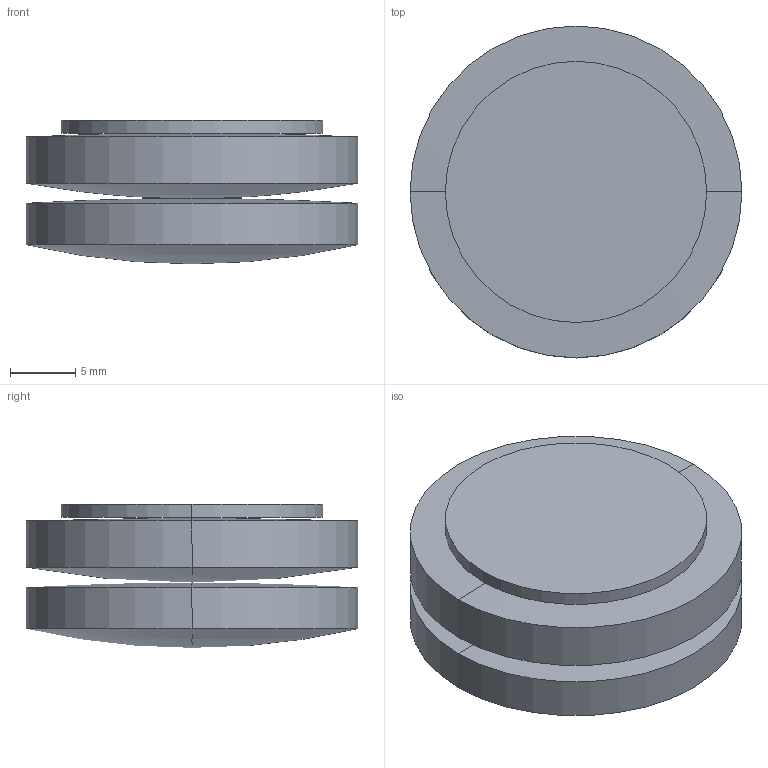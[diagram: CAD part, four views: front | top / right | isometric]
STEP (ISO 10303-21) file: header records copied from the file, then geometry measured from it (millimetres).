
FILE_DESCRIPTION(('STEP AP214'),'1');
FILE_NAME('LLQ-25100.STEP','2020-03-09T17:41:46',(' '),(' '),'Spatial InterOp 3D',' ',' ');
FILE_SCHEMA(('AUTOMOTIVE_DESIGN { 1 0 10303 214 1 1 1 1 }'));
Length unit declared in the file: millimetre
Products named in the file (1): 1
Bounding box: 25.4 x 25.4 x 11 mm (x, y, z)
Volume: 4552.2 mm3; surface area: 3265.7 mm2
Topology: 3 solids, 3 shells, 16 faces, 34 edges, 16 vertices
Faces by surface type: sphere 8, cylinder 6, plane 2
Entity records: 401 total; most frequent: DIRECTION 84, CARTESIAN_POINT 61, ORIENTED_EDGE 52, AXIS2_PLACEMENT_3D 39, EDGE_CURVE 26, CIRCLE 20, ADVANCED_FACE 16, FACE_OUTER_BOUND 16
